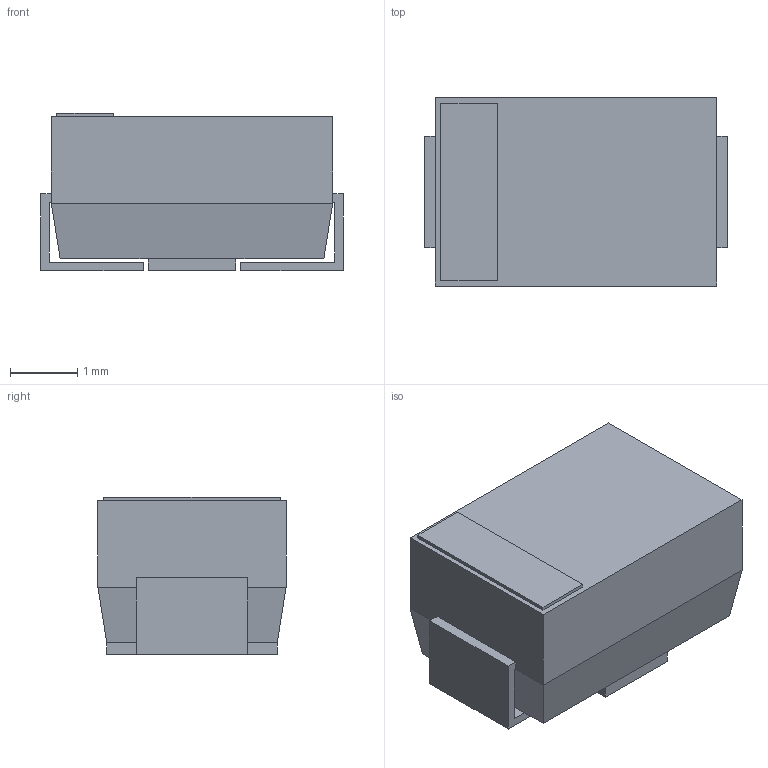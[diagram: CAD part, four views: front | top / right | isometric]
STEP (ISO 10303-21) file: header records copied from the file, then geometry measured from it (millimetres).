
FILE_DESCRIPTION(('STEP AP214'),'1');
FILE_NAME('CR_A34-E35AT_VIS','2026-05-15T10:07:36',(''),(''),'','','');
FILE_SCHEMA(('AUTOMOTIVE_DESIGN'));
Length unit declared in the file: millimetre
Products named in the file (1): product
Bounding box: 4.5 x 2.79 x 2.34 mm (x, y, z)
Volume: 25.7 mm3; surface area: 75.9 mm2
Topology: 4 solids, 4 shells, 42 faces, 94 edges, 60 vertices
Faces by surface type: plane 42
Entity records: 1244 total; most frequent: ORIENTED_EDGE 188, DIRECTION 180, CARTESIAN_POINT 103, EDGE_CURVE 94, LINE 94, VECTOR 94, VERTEX_POINT 60, AXIS2_PLACEMENT_3D 43
